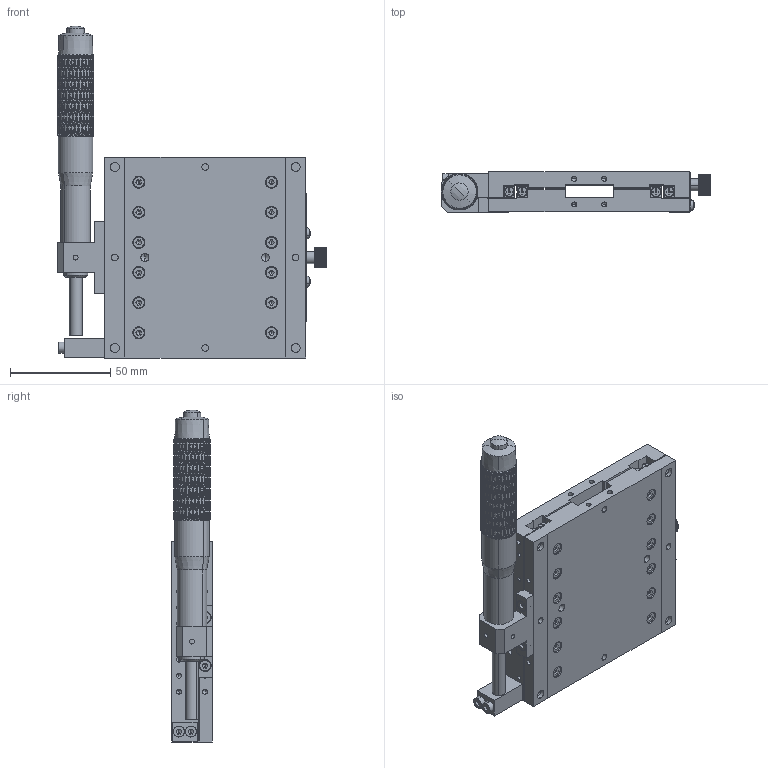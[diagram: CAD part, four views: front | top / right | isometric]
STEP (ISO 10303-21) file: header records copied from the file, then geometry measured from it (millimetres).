
FILE_DESCRIPTION (( 'STEP AP203' ), '1' );
FILE_NAME ('JCX-100L-50.STEP', '2013-12-24T04:39:18', ( 'MMO' ), ( '' ), 'SwSTEP 2.0', 'SolidWorks 2013', '' );
FILE_SCHEMA (( 'CONFIG_CONTROL_DESIGN' ));
Length unit declared in the file: millimetre
Products named in the file (11): JCX-100-10-01; JCX-60-18T-006; socket head cap screw_ks_KS 1003 - M3 x 5 x 5-N; JCX-100-01-01; round cross head screw_ks_KS 1023 RC - M3 x 5-N; JCX-100-02-01; JCX-100L-50; JV2-90-16; JALB-74-F; JCX-100-06-01; JCX-100-04-01
Assembly tree (41 placements, depth 2):
  JCX-100L-50
    JCX-100-01-01
    JCX-100-02-01
    JV2-90-16  x4
    JALB-74-F
    JCX-100-06-01
    JCX-100-04-01
    JCX-100-10-01
    JCX-60-18T-006
    socket head cap screw_ks_KS 1003 - M3 x 5 x 5-N  x28
    round cross head screw_ks_KS 1023 RC - M3 x 5-N  x2
Bounding box: 133.95 x 20 x 165.2 mm (x, y, z)
Volume: 200376.1 mm3; surface area: 87412.4 mm2
Topology: 41 solids, 41 shells, 3431 faces, 7918 edges, 4567 vertices
Faces by surface type: cylinder 1121, bspline 960, plane 870, cone 296, torus 176, sphere 8
Entity records: 89365 total; most frequent: CARTESIAN_POINT 48399, ORIENTED_EDGE 9944, DIRECTION 6076, EDGE_CURVE 4972, VERTEX_POINT 2919, AXIS2_PLACEMENT_3D 2484, EDGE_LOOP 2457, ADVANCED_FACE 2184
